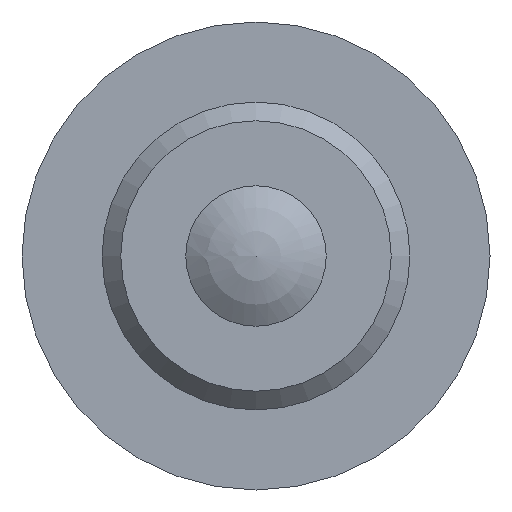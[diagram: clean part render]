
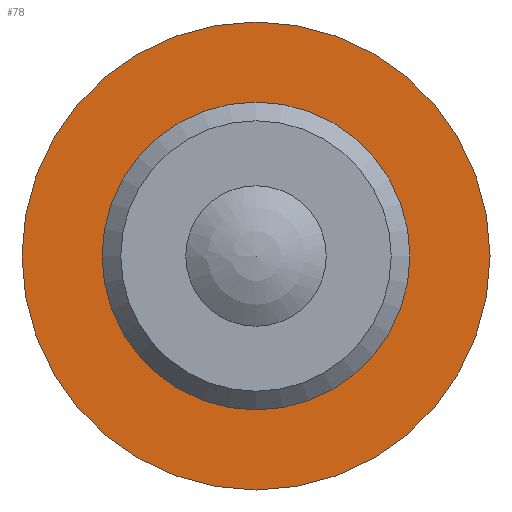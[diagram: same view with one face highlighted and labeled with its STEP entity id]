
A CAD part, front view. The second image highlights one B-rep face of the part: STEP entity #78.
In plain terms, the highlighted planar face has unit normal (0, -1, 0).
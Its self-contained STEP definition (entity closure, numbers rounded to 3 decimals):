
#78 = ADVANCED_FACE( '', ( #109, #110 ), #111, .F. );
#109 = FACE_BOUND( '', #171, .T. );
#110 = FACE_OUTER_BOUND( '', #172, .T. );
#111 = PLANE( '', #173 );
#171 = EDGE_LOOP( '', ( #239 ) );
#172 = EDGE_LOOP( '', ( #240 ) );
#173 = AXIS2_PLACEMENT_3D( '', #241, #242, #243 );
#239 = ORIENTED_EDGE( '', *, *, #399, .F. );
#240 = ORIENTED_EDGE( '', *, *, #397, .T. );
#241 = CARTESIAN_POINT( '', ( 10., 0., 0. ) );
#242 = DIRECTION( '', ( 0., 1., 0. ) );
#243 = DIRECTION( '', ( 0., 0., 1. ) );
#397 = EDGE_CURVE( '', #447, #447, #448, .T. );
#399 = EDGE_CURVE( '', #451, #451, #452, .T. );
#447 = VERTEX_POINT( '', #529 );
#448 = CIRCLE( '', #530, 10. );
#451 = VERTEX_POINT( '', #533 );
#452 = CIRCLE( '', #534, 6.579 );
#529 = CARTESIAN_POINT( '', ( 0., 0., -10. ) );
#530 = AXIS2_PLACEMENT_3D( '', #637, #638, #639 );
#533 = CARTESIAN_POINT( '', ( 0., 0., -6.579 ) );
#534 = AXIS2_PLACEMENT_3D( '', #643, #644, #645 );
#637 = CARTESIAN_POINT( '', ( 0., 0., 0. ) );
#638 = DIRECTION( '', ( 0., -1., 0. ) );
#639 = DIRECTION( '', ( 0., 0., -1. ) );
#643 = CARTESIAN_POINT( '', ( 0., 0., 0. ) );
#644 = DIRECTION( '', ( 0., -1., 0. ) );
#645 = DIRECTION( '', ( 0., 0., -1. ) );
